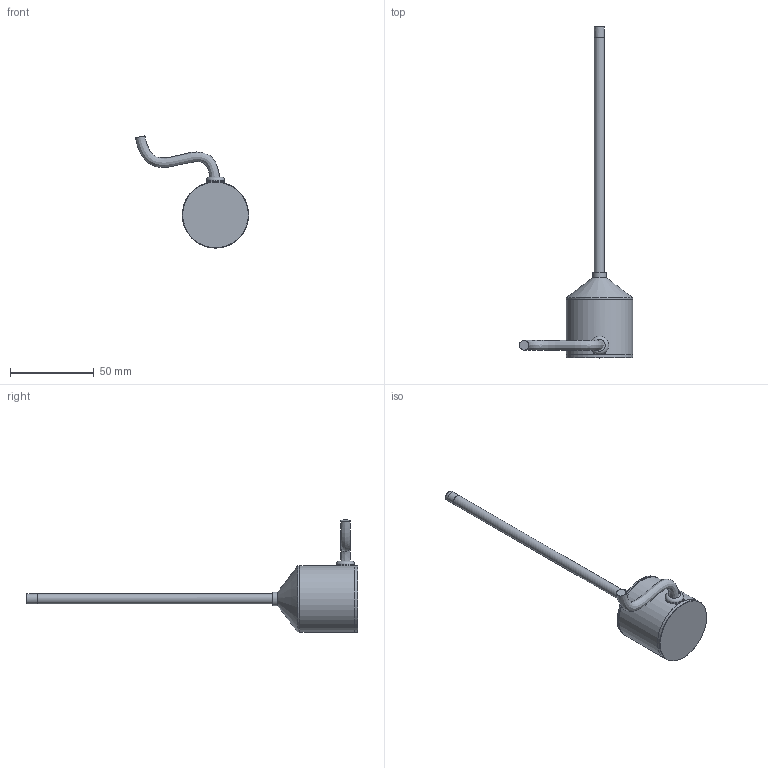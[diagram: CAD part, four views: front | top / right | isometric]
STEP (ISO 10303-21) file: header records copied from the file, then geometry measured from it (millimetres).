
FILE_DESCRIPTION (( 'STEP AP203' ), '1' );
FILE_NAME ('Zusammenbau_UV_Probe_V5_defeature_150mm_head_on.STEP', '2026-09-02T08:59:53', ( '' ), ( '' ), 'SwSTEP 2.0', 'SolidWorks 2025', '' );
FILE_SCHEMA (( 'CONFIG_CONTROL_DESIGN' ));
Length unit declared in the file: millimetre
Products named in the file (1): Zusammenbau_UV_Probe_V5_defeature_150mm_head_on
Bounding box: 67.6 x 198 x 66.94 mm (x, y, z)
Volume: 57549.4 mm3; surface area: 23318.2 mm2
Topology: 7 solids, 7 shells, 87 faces, 161 edges, 105 vertices
Faces by surface type: cylinder 36, plane 36, torus 8, cone 5, bspline 1, sphere 1
Full cylindrical faces by diameter (mm): 0.6 x4, 3.9 x2, 4.3 x1, 5 x2, 6 x4, 7 x1, 8 x2, 9.9 x1, 11 x2, 34.9 x1, 37 x1, 39.6 x4
Entity records: 2284 total; most frequent: CARTESIAN_POINT 615, DIRECTION 361, ORIENTED_EDGE 236, AXIS2_PLACEMENT_3D 169, EDGE_LOOP 140, FACE_OUTER_BOUND 120, EDGE_CURVE 118, VERTEX_POINT 98
